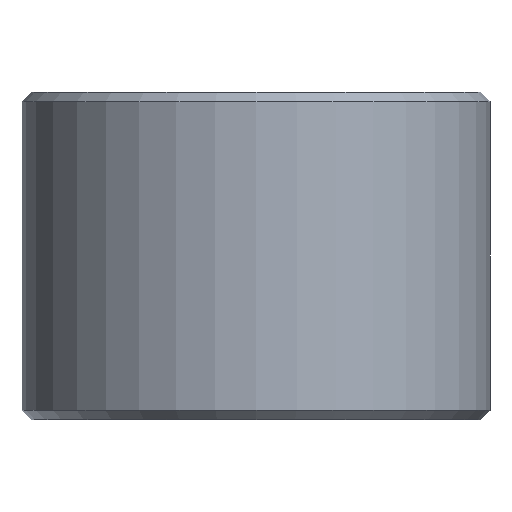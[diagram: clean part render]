
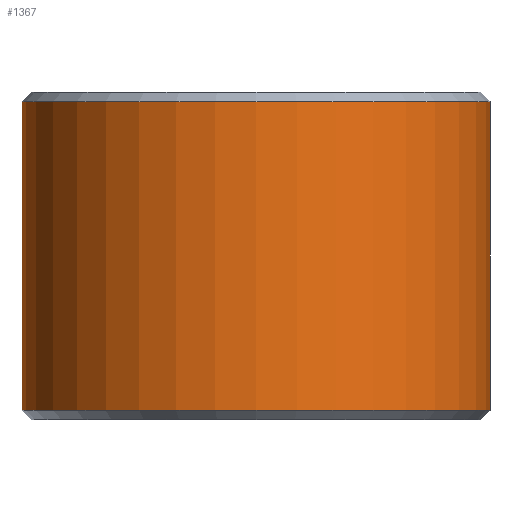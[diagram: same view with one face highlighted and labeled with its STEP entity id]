
A CAD part, front view. The second image highlights one B-rep face of the part: STEP entity #1367.
In plain terms, the highlighted cylindrical face has radius 25 mm (diameter 50 mm), a partial arc.
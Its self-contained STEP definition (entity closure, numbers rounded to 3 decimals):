
#1247=AXIS2_PLACEMENT_3D('Circle Axis2P3D',#1245,#1246,$) ;
#1328=AXIS2_PLACEMENT_3D('Cylinder Axis2P3D',#1325,#1326,#1327) ;
#1358=AXIS2_PLACEMENT_3D('Circle Axis2P3D',#1356,#1357,$) ;
#1242=CARTESIAN_POINT('Vertex',(-25.,0.,34.)) ;
#1245=CARTESIAN_POINT('Axis2P3D Location',(0.,0.,34.)) ;
#1249=CARTESIAN_POINT('Vertex',(25.,0.,34.)) ;
#1325=CARTESIAN_POINT('Axis2P3D Location',(0.,0.,17.5)) ;
#1330=CARTESIAN_POINT('Line Origine',(-25.,0.,17.5)) ;
#1334=CARTESIAN_POINT('Vertex',(-25.,0.,1.)) ;
#1337=CARTESIAN_POINT('Line Origine',(25.,0.,17.5)) ;
#1341=CARTESIAN_POINT('Vertex',(25.,0.,1.)) ;
#1356=CARTESIAN_POINT('Axis2P3D Location',(0.,0.,1.)) ;
#1246=DIRECTION('Axis2P3D Direction',(0.,0.,1.)) ;
#1326=DIRECTION('Axis2P3D Direction',(0.,0.,1.)) ;
#1327=DIRECTION('Axis2P3D XDirection',(1.,0.,0.)) ;
#1331=DIRECTION('Vector Direction',(0.,0.,1.)) ;
#1338=DIRECTION('Vector Direction',(0.,0.,1.)) ;
#1357=DIRECTION('Axis2P3D Direction',(0.,0.,1.)) ;
#1332=VECTOR('Line Direction',#1331,1.) ;
#1339=VECTOR('Line Direction',#1338,1.) ;
#1362=ORIENTED_EDGE('',*,*,#1343,.T.) ;
#1363=ORIENTED_EDGE('',*,*,#1251,.F.) ;
#1364=ORIENTED_EDGE('',*,*,#1336,.F.) ;
#1365=ORIENTED_EDGE('',*,*,#1360,.T.) ;
#1367=ADVANCED_FACE('\X2\96F64EF651E04F554F53\X0\',(#1366),#1329,.T.) ;
#1248=CIRCLE('generated circle',#1247,25.) ;
#1359=CIRCLE('generated circle',#1358,25.) ;
#1329=CYLINDRICAL_SURFACE('generated cylinder',#1328,25.) ;
#1251=EDGE_CURVE('',#1243,#1250,#1248,.T.) ;
#1336=EDGE_CURVE('',#1335,#1243,#1333,.T.) ;
#1343=EDGE_CURVE('',#1342,#1250,#1340,.T.) ;
#1360=EDGE_CURVE('',#1335,#1342,#1359,.T.) ;
#1361=EDGE_LOOP('',(#1362,#1363,#1364,#1365)) ;
#1366=FACE_OUTER_BOUND('',#1361,.T.) ;
#1333=LINE('Line',#1330,#1332) ;
#1340=LINE('Line',#1337,#1339) ;
#1243=VERTEX_POINT('',#1242) ;
#1250=VERTEX_POINT('',#1249) ;
#1335=VERTEX_POINT('',#1334) ;
#1342=VERTEX_POINT('',#1341) ;
